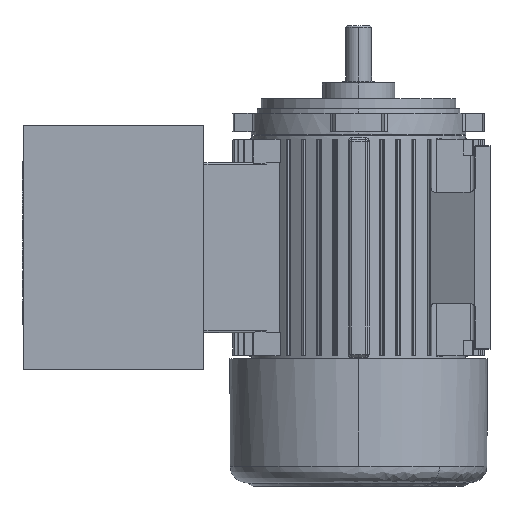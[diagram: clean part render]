
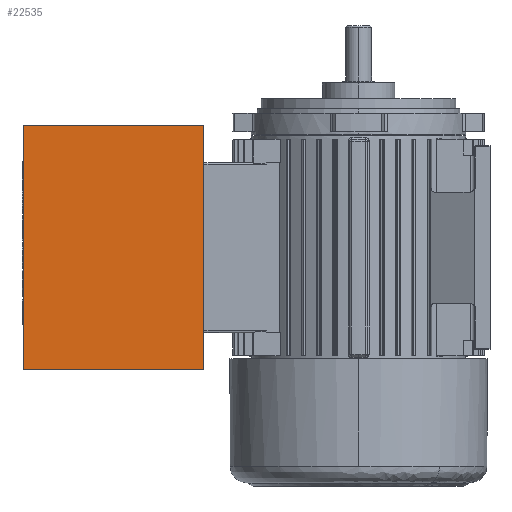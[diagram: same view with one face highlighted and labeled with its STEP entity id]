
A CAD part, left-side view. The second image highlights one B-rep face of the part: STEP entity #22535.
In plain terms, the highlighted planar face has unit normal (-1, 0, 0).
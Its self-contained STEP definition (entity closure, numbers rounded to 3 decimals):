
#18 = DIRECTION ( 'NONE',  ( 0., 0., -1. ) ) ;
#469 = EDGE_CURVE ( 'NONE', #10583, #16807, #16046, .T. ) ;
#987 = CARTESIAN_POINT ( 'NONE',  ( -66., 181., 66. ) ) ;
#1350 = LINE ( 'NONE', #3509, #19083 ) ;
#1369 = DIRECTION ( 'NONE',  ( 0., 0., 1. ) ) ;
#2112 = EDGE_CURVE ( 'NONE', #10583, #14609, #28574, .T. ) ;
#3509 = CARTESIAN_POINT ( 'NONE',  ( -66., 181., -66. ) ) ;
#5386 = DIRECTION ( 'NONE',  ( -1., 0., 0. ) ) ;
#5641 = ORIENTED_EDGE ( 'NONE', *, *, #27515, .F. ) ;
#7863 = CARTESIAN_POINT ( 'NONE',  ( -66., 83.5, -66. ) ) ;
#8692 = VECTOR ( 'NONE', #18341, 1000. ) ;
#9046 = CARTESIAN_POINT ( 'NONE',  ( -66., -107.419, 66. ) ) ;
#9483 = EDGE_LOOP ( 'NONE', ( #16753, #5641, #19968, #28152 ) ) ;
#9650 = CARTESIAN_POINT ( 'NONE',  ( -66., -107.419, -66. ) ) ;
#10583 = VERTEX_POINT ( 'NONE', #16844 ) ;
#10622 = VECTOR ( 'NONE', #18, 1000. ) ;
#12924 = EDGE_CURVE ( 'NONE', #16807, #14438, #17277, .T. ) ;
#14438 = VERTEX_POINT ( 'NONE', #18803 ) ;
#14609 = VERTEX_POINT ( 'NONE', #987 ) ;
#16046 = LINE ( 'NONE', #18312, #10622 ) ;
#16753 = ORIENTED_EDGE ( 'NONE', *, *, #2112, .T. ) ;
#16807 = VERTEX_POINT ( 'NONE', #7863 ) ;
#16844 = CARTESIAN_POINT ( 'NONE',  ( -66., 83.5, 66. ) ) ;
#17277 = LINE ( 'NONE', #22137, #22365 ) ;
#18312 = CARTESIAN_POINT ( 'NONE',  ( -66., 83.5, -66. ) ) ;
#18341 = DIRECTION ( 'NONE',  ( 0., 1., 0. ) ) ;
#18803 = CARTESIAN_POINT ( 'NONE',  ( -66., 181., -66. ) ) ;
#18973 = FACE_OUTER_BOUND ( 'NONE', #9483, .T. ) ;
#19083 = VECTOR ( 'NONE', #1369, 1000. ) ;
#19968 = ORIENTED_EDGE ( 'NONE', *, *, #12924, .F. ) ;
#21589 = DIRECTION ( 'NONE',  ( 0., 0., 1. ) ) ;
#21859 = AXIS2_PLACEMENT_3D ( 'NONE', #9650, #5386, #21589 ) ;
#22137 = CARTESIAN_POINT ( 'NONE',  ( -66., -107.419, -66. ) ) ;
#22365 = VECTOR ( 'NONE', #29420, 1000. ) ;
#22535 = ADVANCED_FACE ( 'NONE', ( #18973 ), #23520, .T. ) ;
#23520 = PLANE ( 'NONE',  #21859 ) ;
#27515 = EDGE_CURVE ( 'NONE', #14438, #14609, #1350, .T. ) ;
#28152 = ORIENTED_EDGE ( 'NONE', *, *, #469, .F. ) ;
#28574 = LINE ( 'NONE', #9046, #8692 ) ;
#29420 = DIRECTION ( 'NONE',  ( 0., 1., 0. ) ) ;
